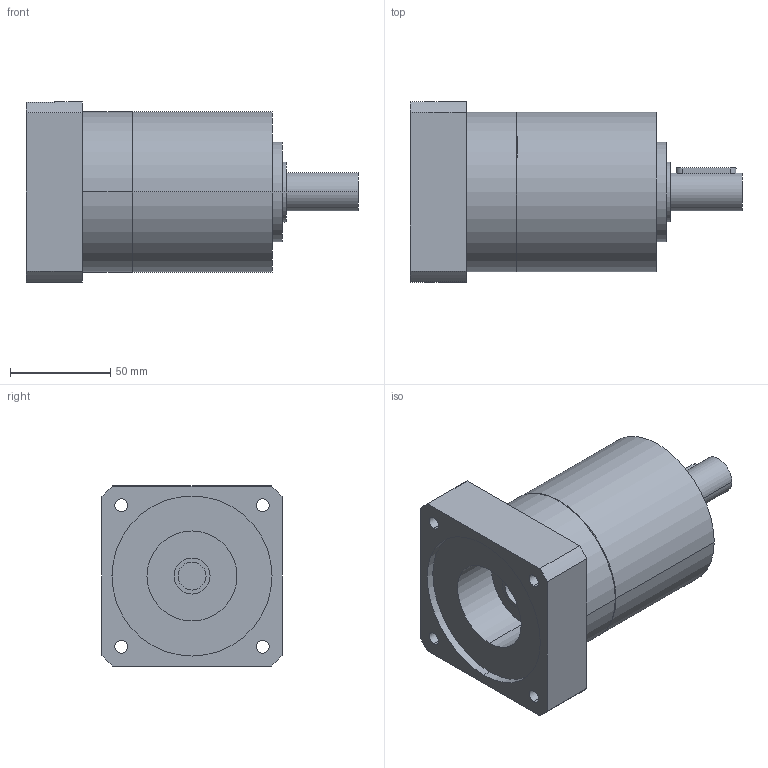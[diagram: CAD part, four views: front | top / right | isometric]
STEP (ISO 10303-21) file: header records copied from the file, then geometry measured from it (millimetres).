
FILE_DESCRIPTION(('CoCreate Modeling STEP Export'),'2;1');
FILE_NAME('GPR100_ig-3-4-5-6_19_B14_14_P28.stp','2014-08-26T10:07:25',(''),(''),'CoCreate Modeling STEP processor for AP214 (Solid Model)','CoCreate Modeling 16.00C 25-Feb-2009 (C) Parametric Technology GmbH','');
FILE_SCHEMA(('AUTOMOTIVE_DESIGN { 1 0 10303 214 1 1 1 1 }'));
Length unit declared in the file: millimetre
Products named in the file (2): GPR100_ig-3-4-5-6_19_B14_14_P28
Assembly tree (1 placements, depth 2):
  GPR100_ig-3-4-5-6_19_B14_14_P28
    GPR100_ig-3-4-5-6_19_B14_14_P28
Bounding box: 166 x 90 x 90 mm (x, y, z)
Volume: 657697.5 mm3; surface area: 62785 mm2
Topology: 1 solids, 1 shells, 70 faces, 187 edges, 131 vertices
Faces by surface type: cylinder 42, plane 22, cone 6
Entity records: 1934 total; most frequent: ORIENTED_EDGE 370, CARTESIAN_POINT 359, DIRECTION 262, EDGE_CURVE 185, VERTEX_POINT 131, AXIS2_PLACEMENT_3D 98, EDGE_LOOP 92, FACE_OUTER_BOUND 70
